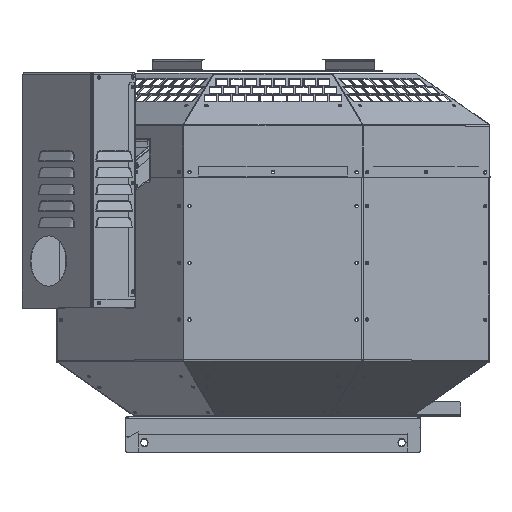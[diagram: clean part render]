
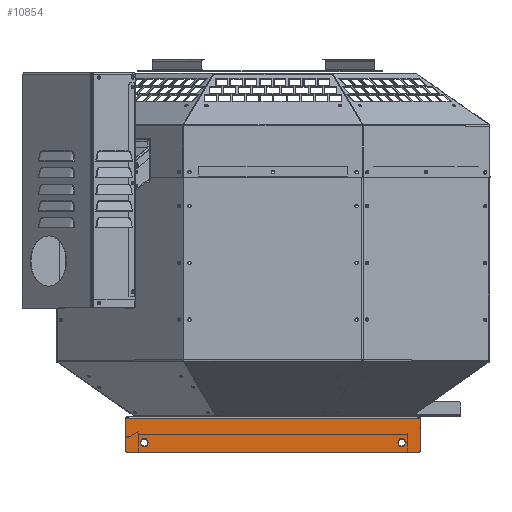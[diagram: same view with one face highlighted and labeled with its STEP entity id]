
A CAD part, top view. The second image highlights one B-rep face of the part: STEP entity #10854.
In plain terms, the highlighted planar face has unit normal (0, 0, 1).
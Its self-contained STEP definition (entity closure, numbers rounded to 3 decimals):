
#125 = AXIS2_PLACEMENT_3D ( 'NONE', #58347, #19807, #64844 ) ;
#219 = VERTEX_POINT ( 'NONE', #82515 ) ;
#1282 = VERTEX_POINT ( 'NONE', #32946 ) ;
#1319 = CARTESIAN_POINT ( 'NONE',  ( 181.525, -3.632, 170.3 ) ) ;
#1448 = EDGE_LOOP ( 'NONE', ( #65469, #38455, #46561, #20501, #34495, #29651, #61621, #8520 ) ) ;
#1538 = LINE ( 'NONE', #25206, #16615 ) ;
#1688 = EDGE_CURVE ( 'NONE', #219, #28690, #12017, .T. ) ;
#1967 = PLANE ( 'NONE',  #27807 ) ;
#2912 = VERTEX_POINT ( 'NONE', #24324 ) ;
#3233 = EDGE_CURVE ( 'NONE', #45428, #1282, #73313, .T. ) ;
#3323 = LINE ( 'NONE', #83146, #50620 ) ;
#3949 = EDGE_LOOP ( 'NONE', ( #68013, #65208 ) ) ;
#5648 = CARTESIAN_POINT ( 'NONE',  ( -158.5, -37.232, 170.3 ) ) ;
#6692 = CIRCLE ( 'NONE', #38012, 3. ) ;
#7319 = CARTESIAN_POINT ( 'NONE',  ( 181.525, -41.682, 170.3 ) ) ;
#7375 = VERTEX_POINT ( 'NONE', #73028 ) ;
#8300 = LINE ( 'NONE', #1319, #74843 ) ;
#8520 = ORIENTED_EDGE ( 'NONE', *, *, #51743, .T. ) ;
#8908 = EDGE_CURVE ( 'NONE', #76836, #2912, #1538, .T. ) ;
#8952 = EDGE_LOOP ( 'NONE', ( #31632, #21481 ) ) ;
#9448 = FACE_BOUND ( 'NONE', #8952, .T. ) ;
#9605 = AXIS2_PLACEMENT_3D ( 'NONE', #37122, #82239, #43579 ) ;
#10687 = DIRECTION ( 'NONE',  ( 0., 0., 1. ) ) ;
#10854 = ADVANCED_FACE ( 'NONE', ( #9448, #41672, #58770 ), #1967, .T. ) ;
#11112 = CARTESIAN_POINT ( 'NONE',  ( 158.5, -32.732, 170.3 ) ) ;
#12017 = LINE ( 'NONE', #15978, #78589 ) ;
#12490 = CARTESIAN_POINT ( 'NONE',  ( -158.5, -28.232, 170.3 ) ) ;
#15978 = CARTESIAN_POINT ( 'NONE',  ( -169.025, -44.682, 170.3 ) ) ;
#16615 = VECTOR ( 'NONE', #83239, 1000. ) ;
#16646 = EDGE_CURVE ( 'NONE', #7375, #33687, #49127, .T. ) ;
#17588 = DIRECTION ( 'NONE',  ( 0., -1., 0. ) ) ;
#19807 = DIRECTION ( 'NONE',  ( 0., 0., 1. ) ) ;
#20501 = ORIENTED_EDGE ( 'NONE', *, *, #3233, .F. ) ;
#21211 = EDGE_CURVE ( 'NONE', #45428, #82042, #75780, .T. ) ;
#21405 = DIRECTION ( 'NONE',  ( 0., 0., 1. ) ) ;
#21481 = ORIENTED_EDGE ( 'NONE', *, *, #25404, .F. ) ;
#21860 = EDGE_CURVE ( 'NONE', #73906, #34663, #38687, .T. ) ;
#21916 = VECTOR ( 'NONE', #44087, 1000. ) ;
#22964 = EDGE_CURVE ( 'NONE', #34663, #73906, #66697, .T. ) ;
#23044 = CARTESIAN_POINT ( 'NONE',  ( 178.525, -41.682, 170.3 ) ) ;
#24324 = CARTESIAN_POINT ( 'NONE',  ( -181.525, -41.682, 170.3 ) ) ;
#25206 = CARTESIAN_POINT ( 'NONE',  ( -181.525, -3.632, 170.3 ) ) ;
#25404 = EDGE_CURVE ( 'NONE', #33687, #7375, #67353, .T. ) ;
#27807 = AXIS2_PLACEMENT_3D ( 'NONE', #40503, #21405, #66408 ) ;
#28690 = VERTEX_POINT ( 'NONE', #30308 ) ;
#28880 = CARTESIAN_POINT ( 'NONE',  ( 178.125, -3.632, 170.3 ) ) ;
#29535 = DIRECTION ( 'NONE',  ( 0., -1., 0. ) ) ;
#29651 = ORIENTED_EDGE ( 'NONE', *, *, #72336, .T. ) ;
#30308 = CARTESIAN_POINT ( 'NONE',  ( -178.525, -44.682, 170.3 ) ) ;
#30428 = DIRECTION ( 'NONE',  ( 0., 0., 1. ) ) ;
#31632 = ORIENTED_EDGE ( 'NONE', *, *, #16646, .F. ) ;
#32946 = CARTESIAN_POINT ( 'NONE',  ( 181.525, -3.632, 170.3 ) ) ;
#33687 = VERTEX_POINT ( 'NONE', #63226 ) ;
#34495 = ORIENTED_EDGE ( 'NONE', *, *, #21211, .T. ) ;
#34663 = VERTEX_POINT ( 'NONE', #5648 ) ;
#34856 = VERTEX_POINT ( 'NONE', #7319 ) ;
#37122 = CARTESIAN_POINT ( 'NONE',  ( 158.5, -32.732, 170.3 ) ) ;
#38012 = AXIS2_PLACEMENT_3D ( 'NONE', #23044, #68052, #29535 ) ;
#38455 = ORIENTED_EDGE ( 'NONE', *, *, #52113, .T. ) ;
#38687 = CIRCLE ( 'NONE', #65345, 4.5 ) ;
#39402 = EDGE_CURVE ( 'NONE', #1282, #34856, #8300, .T. ) ;
#39598 = AXIS2_PLACEMENT_3D ( 'NONE', #49259, #10687, #55741 ) ;
#40503 = CARTESIAN_POINT ( 'NONE',  ( -169.025, -1.732, 170.3 ) ) ;
#41672 = FACE_BOUND ( 'NONE', #3949, .T. ) ;
#43579 = DIRECTION ( 'NONE',  ( 0., -1., 0. ) ) ;
#43917 = DIRECTION ( 'NONE',  ( -1., 0., 0. ) ) ;
#44017 = DIRECTION ( 'NONE',  ( -1., 0., 0. ) ) ;
#44087 = DIRECTION ( 'NONE',  ( 1., 0., 0. ) ) ;
#45428 = VERTEX_POINT ( 'NONE', #28880 ) ;
#46561 = ORIENTED_EDGE ( 'NONE', *, *, #39402, .F. ) ;
#48205 = AXIS2_PLACEMENT_3D ( 'NONE', #11112, #56160, #17588 ) ;
#49127 = CIRCLE ( 'NONE', #9605, 4.5 ) ;
#49259 = CARTESIAN_POINT ( 'NONE',  ( -178.525, -41.682, 170.3 ) ) ;
#50620 = VECTOR ( 'NONE', #43917, 1000. ) ;
#51743 = EDGE_CURVE ( 'NONE', #2912, #28690, #63116, .T. ) ;
#52113 = EDGE_CURVE ( 'NONE', #219, #34856, #6692, .T. ) ;
#55741 = DIRECTION ( 'NONE',  ( 0., -1., 0. ) ) ;
#56134 = CARTESIAN_POINT ( 'NONE',  ( -181.525, -3.632, 170.3 ) ) ;
#56160 = DIRECTION ( 'NONE',  ( 0., 0., 1. ) ) ;
#56558 = VECTOR ( 'NONE', #67918, 1000. ) ;
#58347 = CARTESIAN_POINT ( 'NONE',  ( -158.5, -32.732, 170.3 ) ) ;
#58770 = FACE_OUTER_BOUND ( 'NONE', #1448, .T. ) ;
#59275 = DIRECTION ( 'NONE',  ( 0., -1., 0. ) ) ;
#61414 = CARTESIAN_POINT ( 'NONE',  ( -169.025, -3.632, 170.3 ) ) ;
#61621 = ORIENTED_EDGE ( 'NONE', *, *, #8908, .T. ) ;
#63116 = CIRCLE ( 'NONE', #39598, 3. ) ;
#63200 = CARTESIAN_POINT ( 'NONE',  ( 169.025, -3.632, 170.3 ) ) ;
#63226 = CARTESIAN_POINT ( 'NONE',  ( 158.5, -28.232, 170.3 ) ) ;
#64844 = DIRECTION ( 'NONE',  ( 0., -1., 0. ) ) ;
#65208 = ORIENTED_EDGE ( 'NONE', *, *, #21860, .F. ) ;
#65345 = AXIS2_PLACEMENT_3D ( 'NONE', #68963, #30428, #75457 ) ;
#65469 = ORIENTED_EDGE ( 'NONE', *, *, #1688, .F. ) ;
#66408 = DIRECTION ( 'NONE',  ( 0., -1., 0. ) ) ;
#66697 = CIRCLE ( 'NONE', #125, 4.5 ) ;
#67353 = CIRCLE ( 'NONE', #48205, 4.5 ) ;
#67918 = DIRECTION ( 'NONE',  ( -1., 0., 0. ) ) ;
#68013 = ORIENTED_EDGE ( 'NONE', *, *, #22964, .F. ) ;
#68052 = DIRECTION ( 'NONE',  ( 0., 0., 1. ) ) ;
#68963 = CARTESIAN_POINT ( 'NONE',  ( -158.5, -32.732, 170.3 ) ) ;
#72336 = EDGE_CURVE ( 'NONE', #82042, #76836, #3323, .T. ) ;
#73028 = CARTESIAN_POINT ( 'NONE',  ( 158.5, -37.232, 170.3 ) ) ;
#73313 = LINE ( 'NONE', #63200, #21916 ) ;
#73906 = VERTEX_POINT ( 'NONE', #12490 ) ;
#74843 = VECTOR ( 'NONE', #59275, 1000. ) ;
#75457 = DIRECTION ( 'NONE',  ( 0., -1., 0. ) ) ;
#75780 = LINE ( 'NONE', #61414, #56558 ) ;
#76836 = VERTEX_POINT ( 'NONE', #56134 ) ;
#78589 = VECTOR ( 'NONE', #44017, 1000. ) ;
#81435 = CARTESIAN_POINT ( 'NONE',  ( -178.125, -3.632, 170.3 ) ) ;
#82042 = VERTEX_POINT ( 'NONE', #81435 ) ;
#82239 = DIRECTION ( 'NONE',  ( 0., 0., 1. ) ) ;
#82515 = CARTESIAN_POINT ( 'NONE',  ( 178.525, -44.682, 170.3 ) ) ;
#83146 = CARTESIAN_POINT ( 'NONE',  ( -169.025, -3.632, 170.3 ) ) ;
#83239 = DIRECTION ( 'NONE',  ( 0., -1., 0. ) ) ;
